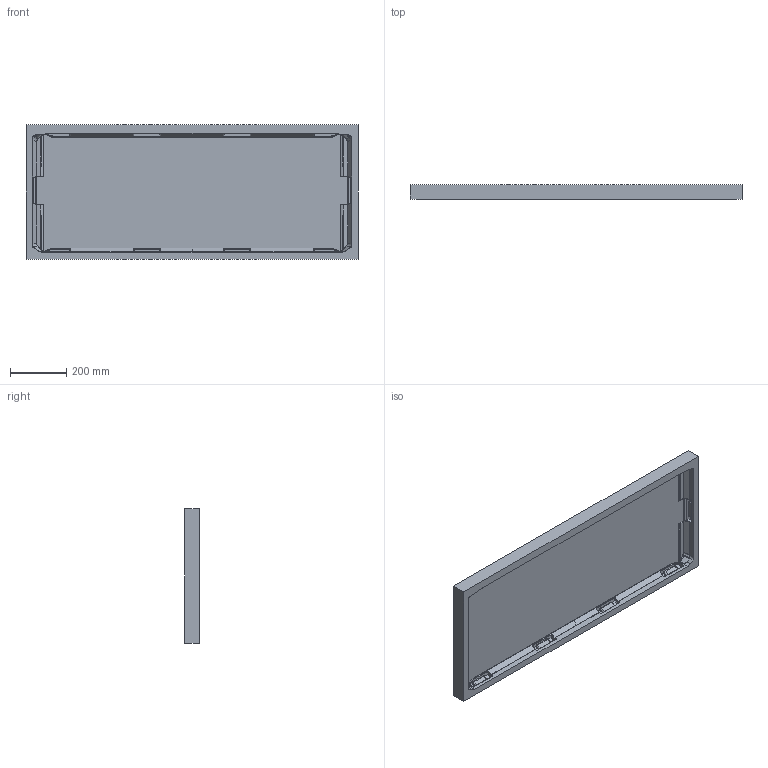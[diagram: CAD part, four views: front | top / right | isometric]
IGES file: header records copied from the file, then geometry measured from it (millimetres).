
Start section: SolidWorks IGES file using analytic representation for surfaces
Global section: file name: C:\Users\chad.chaiyont\My Project\Vault Case\Vault TOR\Vault CAD\PP PID cad\V730 PP\V730 PP tubs\V730 PP TOP TUB 2-5-2024.IGS; native system: SolidWorks 2021; preprocessor: SolidWorks 2021; author: Chad.Chaiyont; date: 240215.104336; units: millimetre
Bounding box: 1184.63 x 51.5 x 478.66 mm (x, y, z)
Surface area: 1425217 mm2 (no closed solid volume)
Topology: 0 solids, 0 shells, 1058 faces, 7098 edges, 7060 vertices
Faces by surface type: bspline 655, revolution 403
